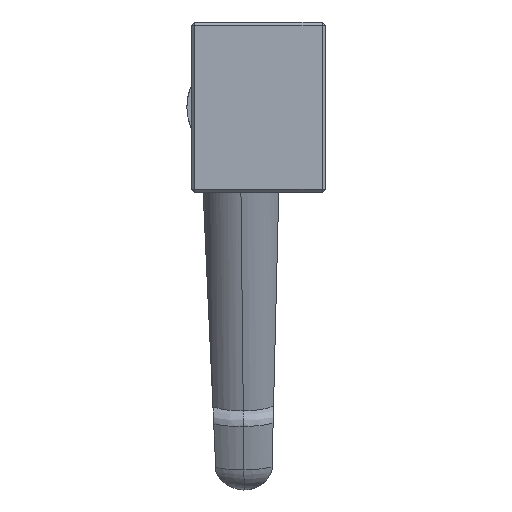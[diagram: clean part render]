
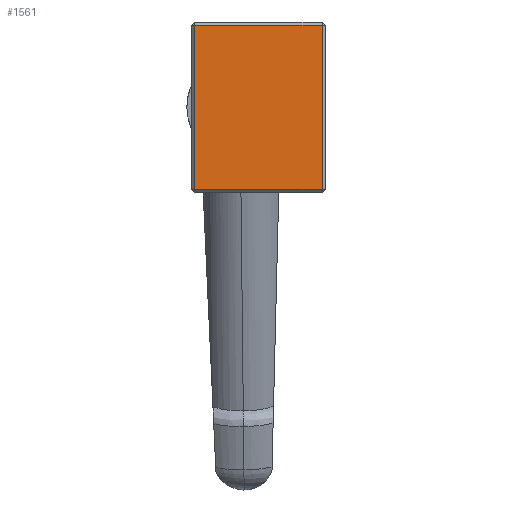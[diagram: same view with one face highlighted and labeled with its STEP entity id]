
A CAD part, left-side view. The second image highlights one B-rep face of the part: STEP entity #1561.
In plain terms, the highlighted planar face has unit normal (-1, 0, 0).
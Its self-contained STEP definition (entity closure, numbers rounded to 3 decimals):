
#8 = VECTOR ( 'NONE', #1617, 1000. ) ;
#49 = EDGE_CURVE ( 'NONE', #2761, #1901, #1764, .T. ) ;
#276 = CARTESIAN_POINT ( 'NONE',  ( 623.978, 873.735, 1261.507 ) ) ;
#566 = EDGE_CURVE ( 'NONE', #1901, #2979, #1999, .T. ) ;
#665 = DIRECTION ( 'NONE',  ( 0., 1., 0. ) ) ;
#787 = CARTESIAN_POINT ( 'NONE',  ( 623.978, 852.735, 1262.007 ) ) ;
#838 = ORIENTED_EDGE ( 'NONE', *, *, #49, .T. ) ;
#930 = DIRECTION ( 'NONE',  ( 1., 0., 0. ) ) ;
#1030 = CARTESIAN_POINT ( 'NONE',  ( 623.978, 873.735, 1262.007 ) ) ;
#1085 = CARTESIAN_POINT ( 'NONE',  ( 623.978, 873.735, 1289.007 ) ) ;
#1294 = CARTESIAN_POINT ( 'NONE',  ( 623.978, 874.235, 1262.007 ) ) ;
#1561 = ADVANCED_FACE ( 'NONE', ( #1658 ), #4447, .F. ) ;
#1566 = EDGE_LOOP ( 'NONE', ( #838, #3558, #2512, #4082 ) ) ;
#1617 = DIRECTION ( 'NONE',  ( 0., 0., 1. ) ) ;
#1658 = FACE_OUTER_BOUND ( 'NONE', #1566, .T. ) ;
#1666 = LINE ( 'NONE', #3414, #8 ) ;
#1764 = LINE ( 'NONE', #276, #2340 ) ;
#1901 = VERTEX_POINT ( 'NONE', #1030 ) ;
#1996 = VERTEX_POINT ( 'NONE', #4156 ) ;
#1999 = LINE ( 'NONE', #1294, #3247 ) ;
#2106 = EDGE_CURVE ( 'NONE', #2979, #1996, #1666, .T. ) ;
#2340 = VECTOR ( 'NONE', #3491, 1000. ) ;
#2512 = ORIENTED_EDGE ( 'NONE', *, *, #2106, .T. ) ;
#2747 = LINE ( 'NONE', #3879, #4328 ) ;
#2761 = VERTEX_POINT ( 'NONE', #1085 ) ;
#2979 = VERTEX_POINT ( 'NONE', #787 ) ;
#3020 = DIRECTION ( 'NONE',  ( 0., -1., 0. ) ) ;
#3247 = VECTOR ( 'NONE', #3020, 1000. ) ;
#3414 = CARTESIAN_POINT ( 'NONE',  ( 623.978, 852.735, 1261.507 ) ) ;
#3491 = DIRECTION ( 'NONE',  ( 0., 0., -1. ) ) ;
#3558 = ORIENTED_EDGE ( 'NONE', *, *, #566, .T. ) ;
#3810 = CARTESIAN_POINT ( 'NONE',  ( 623.978, 874.235, 1261.507 ) ) ;
#3823 = AXIS2_PLACEMENT_3D ( 'NONE', #3810, #930, #3832 ) ;
#3832 = DIRECTION ( 'NONE',  ( 0., 0., -1. ) ) ;
#3879 = CARTESIAN_POINT ( 'NONE',  ( 623.978, 874.235, 1289.007 ) ) ;
#3957 = EDGE_CURVE ( 'NONE', #1996, #2761, #2747, .T. ) ;
#4082 = ORIENTED_EDGE ( 'NONE', *, *, #3957, .T. ) ;
#4156 = CARTESIAN_POINT ( 'NONE',  ( 623.978, 852.735, 1289.007 ) ) ;
#4328 = VECTOR ( 'NONE', #665, 1000. ) ;
#4447 = PLANE ( 'NONE',  #3823 ) ;
